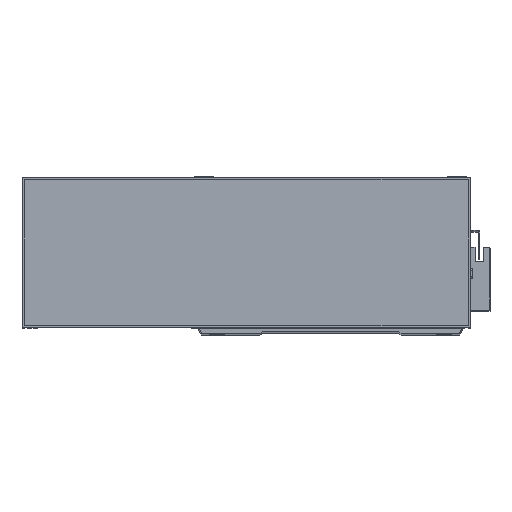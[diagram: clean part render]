
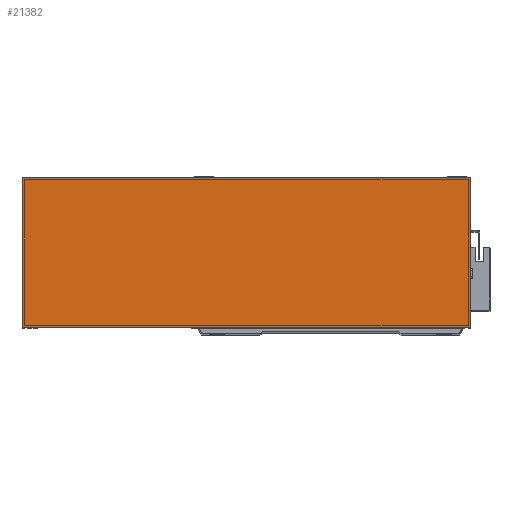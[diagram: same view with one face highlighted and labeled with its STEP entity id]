
A CAD part, top view. The second image highlights one B-rep face of the part: STEP entity #21382.
In plain terms, the highlighted planar face has unit normal (0, 0, 1).
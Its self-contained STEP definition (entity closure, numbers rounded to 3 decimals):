
#865 = DIRECTION ( 'NONE',  ( 1., 0., 0. ) ) ;
#2637 = CARTESIAN_POINT ( 'NONE',  ( 0., 93., 50. ) ) ;
#2962 = CARTESIAN_POINT ( 'NONE',  ( 277., 0., 50. ) ) ;
#3205 = ORIENTED_EDGE ( 'NONE', *, *, #19548, .T. ) ;
#4199 = EDGE_CURVE ( 'NONE', #13104, #13758, #25458, .T. ) ;
#5318 = DIRECTION ( 'NONE',  ( 0., 0., -1. ) ) ;
#6811 = CARTESIAN_POINT ( 'NONE',  ( 277., 0., 50. ) ) ;
#6984 = CARTESIAN_POINT ( 'NONE',  ( 0., 0., 50. ) ) ;
#7416 = EDGE_CURVE ( 'NONE', #21860, #11705, #11649, .T. ) ;
#9151 = DIRECTION ( 'NONE',  ( 0., -1., 0. ) ) ;
#9818 = FACE_OUTER_BOUND ( 'NONE', #18692, .T. ) ;
#10670 = ORIENTED_EDGE ( 'NONE', *, *, #7416, .T. ) ;
#11430 = CARTESIAN_POINT ( 'NONE',  ( 0., 93., 50. ) ) ;
#11649 = LINE ( 'NONE', #6984, #22546 ) ;
#11705 = VERTEX_POINT ( 'NONE', #22868 ) ;
#13104 = VERTEX_POINT ( 'NONE', #6811 ) ;
#13349 = VECTOR ( 'NONE', #15821, 1000. ) ;
#13529 = AXIS2_PLACEMENT_3D ( 'NONE', #22588, #5318, #20481 ) ;
#13758 = VERTEX_POINT ( 'NONE', #21438 ) ;
#13910 = LINE ( 'NONE', #26815, #24794 ) ;
#15821 = DIRECTION ( 'NONE',  ( -1., 0., 0. ) ) ;
#15950 = DIRECTION ( 'NONE',  ( 0., 1., 0. ) ) ;
#18286 = PLANE ( 'NONE',  #13529 ) ;
#18692 = EDGE_LOOP ( 'NONE', ( #10670, #3205, #27867, #19848 ) ) ;
#19163 = LINE ( 'NONE', #2637, #13349 ) ;
#19548 = EDGE_CURVE ( 'NONE', #11705, #13104, #13910, .T. ) ;
#19848 = ORIENTED_EDGE ( 'NONE', *, *, #25805, .T. ) ;
#20481 = DIRECTION ( 'NONE',  ( -1., 0., 0. ) ) ;
#21382 = ADVANCED_FACE ( 'NONE', ( #9818 ), #18286, .F. ) ;
#21438 = CARTESIAN_POINT ( 'NONE',  ( 277., 93., 50. ) ) ;
#21860 = VERTEX_POINT ( 'NONE', #11430 ) ;
#22546 = VECTOR ( 'NONE', #9151, 1000. ) ;
#22588 = CARTESIAN_POINT ( 'NONE',  ( 0., 0., 50. ) ) ;
#22868 = CARTESIAN_POINT ( 'NONE',  ( 0., 0., 50. ) ) ;
#24794 = VECTOR ( 'NONE', #865, 1000. ) ;
#25458 = LINE ( 'NONE', #2962, #26160 ) ;
#25805 = EDGE_CURVE ( 'NONE', #13758, #21860, #19163, .T. ) ;
#26160 = VECTOR ( 'NONE', #15950, 1000. ) ;
#26815 = CARTESIAN_POINT ( 'NONE',  ( 0., 0., 50. ) ) ;
#27867 = ORIENTED_EDGE ( 'NONE', *, *, #4199, .T. ) ;
